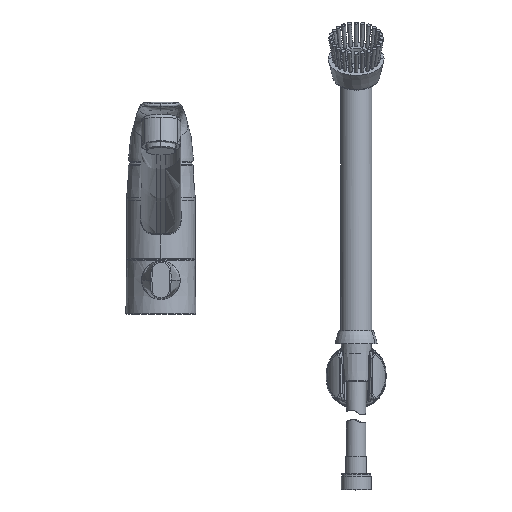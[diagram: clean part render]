
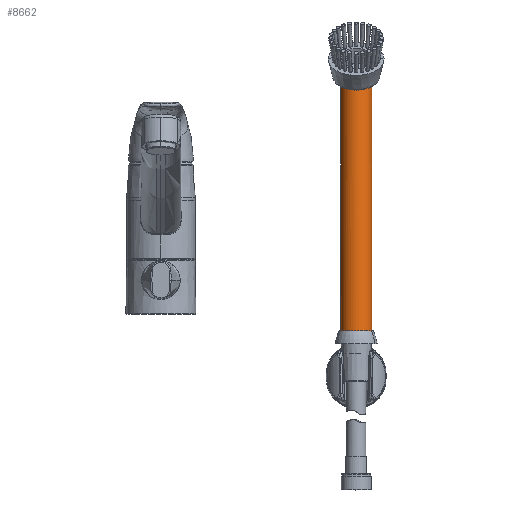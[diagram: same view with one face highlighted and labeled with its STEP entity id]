
A CAD part, top view. The second image highlights one B-rep face of the part: STEP entity #8662.
In plain terms, the highlighted cylindrical face has radius 12 mm (diameter 24 mm), a partial arc.
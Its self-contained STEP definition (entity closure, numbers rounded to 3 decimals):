
#901 = CARTESIAN_POINT ( 'NONE',  ( 162., -20.17, 0. ) ) ;
#967 = DIRECTION ( 'NONE',  ( 1., 0., 0. ) ) ;
#1232 = DIRECTION ( 'NONE',  ( 0., 1., 0. ) ) ;
#1237 = EDGE_CURVE ( 'NONE', #3900, #16168, #4322, .T. ) ;
#1588 = CARTESIAN_POINT ( 'NONE',  ( 150., -20.17, 0. ) ) ;
#1658 = ORIENTED_EDGE ( 'NONE', *, *, #3068, .T. ) ;
#1991 = VECTOR ( 'NONE', #9086, 1000. ) ;
#2052 = CARTESIAN_POINT ( 'NONE',  ( 162., 184.609, 0. ) ) ;
#2667 = EDGE_CURVE ( 'NONE', #24035, #10192, #7609, .T. ) ;
#2988 = CIRCLE ( 'NONE', #3809, 12. ) ;
#3068 = EDGE_CURVE ( 'NONE', #3900, #24035, #27183, .T. ) ;
#3652 = VECTOR ( 'NONE', #7311, 1000. ) ;
#3809 = AXIS2_PLACEMENT_3D ( 'NONE', #1588, #1232, #967 ) ;
#3900 = VERTEX_POINT ( 'NONE', #2052 ) ;
#3930 = EDGE_CURVE ( 'NONE', #10192, #16168, #2988, .T. ) ;
#4322 = LINE ( 'NONE', #26768, #3652 ) ;
#4907 = ORIENTED_EDGE ( 'NONE', *, *, #1237, .F. ) ;
#6786 = EDGE_LOOP ( 'NONE', ( #4907, #1658, #22306, #14870 ) ) ;
#7311 = DIRECTION ( 'NONE',  ( 0., -1., 0. ) ) ;
#7609 = LINE ( 'NONE', #9650, #1991 ) ;
#8662 = ADVANCED_FACE ( 'NONE', ( #25206 ), #24274, .T. ) ;
#9086 = DIRECTION ( 'NONE',  ( 0., -1., 0. ) ) ;
#9650 = CARTESIAN_POINT ( 'NONE',  ( 138., 185.83, 0. ) ) ;
#10192 = VERTEX_POINT ( 'NONE', #15008 ) ;
#12532 = AXIS2_PLACEMENT_3D ( 'NONE', #20899, #25009, #18790 ) ;
#14870 = ORIENTED_EDGE ( 'NONE', *, *, #3930, .T. ) ;
#15008 = CARTESIAN_POINT ( 'NONE',  ( 138., -20.17, 0. ) ) ;
#16168 = VERTEX_POINT ( 'NONE', #901 ) ;
#18790 = DIRECTION ( 'NONE',  ( -1., 0., 0. ) ) ;
#20656 = CARTESIAN_POINT ( 'NONE',  ( 138., 184.609, 0. ) ) ;
#20686 = CARTESIAN_POINT ( 'NONE',  ( 138., 167.126, 24. ) ) ;
#20899 = CARTESIAN_POINT ( 'NONE',  ( 150., 185.83, 0. ) ) ;
#21049 = CARTESIAN_POINT ( 'NONE',  ( 162., 184.609, 0. ) ) ;
#21277 = CARTESIAN_POINT ( 'NONE',  ( 162., 167.126, 24. ) ) ;
#22306 = ORIENTED_EDGE ( 'NONE', *, *, #2667, .T. ) ;
#24035 = VERTEX_POINT ( 'NONE', #26672 ) ;
#24274 = CYLINDRICAL_SURFACE ( 'NONE', #12532, 12. ) ;
#25009 = DIRECTION ( 'NONE',  ( 0., -1., 0. ) ) ;
#25206 = FACE_OUTER_BOUND ( 'NONE', #6786, .T. ) ;
#26672 = CARTESIAN_POINT ( 'NONE',  ( 138., 184.609, 0. ) ) ;
#26768 = CARTESIAN_POINT ( 'NONE',  ( 162., 185.83, 0. ) ) ;
#27183 =( BOUNDED_CURVE ( )  B_SPLINE_CURVE ( 3, ( #21049, #21277, #20686, #20656 ),
 .UNSPECIFIED., .F., .T. ) 
 B_SPLINE_CURVE_WITH_KNOTS ( ( 4, 4 ),
 ( 4.712, 7.854 ),
 .UNSPECIFIED. ) 
 CURVE ( )  GEOMETRIC_REPRESENTATION_ITEM ( )  RATIONAL_B_SPLINE_CURVE ( ( 1., 0.333, 0.333, 1. ) ) 
 REPRESENTATION_ITEM ( '' )  );
